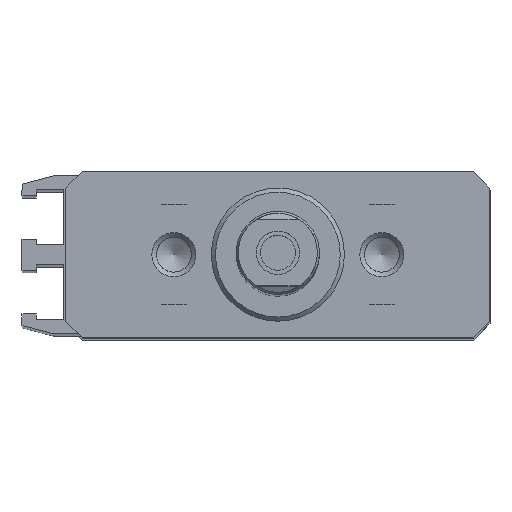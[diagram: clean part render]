
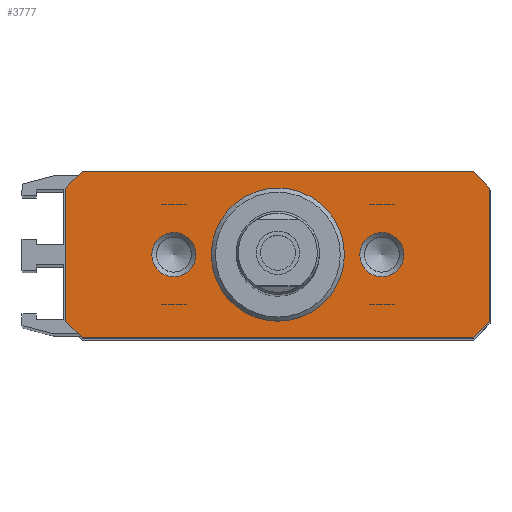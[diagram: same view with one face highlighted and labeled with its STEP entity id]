
A CAD part, top view. The second image highlights one B-rep face of the part: STEP entity #3777.
In plain terms, the highlighted planar face has unit normal (0, 0, 1) as drawn and (0, 0, -1) by its records, which use the part's own axes.
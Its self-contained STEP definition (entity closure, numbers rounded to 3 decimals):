
#2722=CARTESIAN_POINT('',(-8.0,0.0,-6.));
#2723=VERTEX_POINT('',#2722);
#2724=CARTESIAN_POINT('',(0.0,0.0,-6.));
#2725=DIRECTION('',(0.0,0.0,1.0));
#2726=DIRECTION('',(-1.0,0.0,0.0));
#2727=AXIS2_PLACEMENT_3D('',#2724,#2725,#2726);
#2728=CIRCLE('',#2727,8.0);
#2729=EDGE_CURVE('',#2723,#2723,#2728,.T.);
#3187=CARTESIAN_POINT('',(9.85,0.0,-6.));
#3188=VERTEX_POINT('',#3187);
#3189=CARTESIAN_POINT('',(12.5,0.0,-6.));
#3190=DIRECTION('',(0.0,0.0,1.0));
#3191=DIRECTION('',(-1.0,0.0,0.0));
#3192=AXIS2_PLACEMENT_3D('',#3189,#3190,#3191);
#3193=CIRCLE('',#3192,2.65);
#3194=EDGE_CURVE('',#3188,#3188,#3193,.T.);
#3237=CARTESIAN_POINT('',(-15.15,0.0,-6.));
#3238=VERTEX_POINT('',#3237);
#3239=CARTESIAN_POINT('',(-12.5,0.0,-6.));
#3240=DIRECTION('',(0.0,0.0,1.0));
#3241=DIRECTION('',(-1.0,0.0,0.0));
#3242=AXIS2_PLACEMENT_3D('',#3239,#3240,#3241);
#3243=CIRCLE('',#3242,2.65);
#3244=EDGE_CURVE('',#3238,#3238,#3243,.T.);
#3548=CARTESIAN_POINT('',(23.5,10.0,-6.));
#3549=VERTEX_POINT('',#3548);
#3550=CARTESIAN_POINT('',(-23.5,10.0,-6.));
#3551=VERTEX_POINT('',#3550);
#3552=CARTESIAN_POINT('',(23.5,10.0,-6.));
#3553=DIRECTION('',(-1.0,0.0,0.0));
#3554=VECTOR('',#3553,47.);
#3555=LINE('',#3552,#3554);
#3556=EDGE_CURVE('',#3549,#3551,#3555,.T.);
#3585=CARTESIAN_POINT('',(-25.5,8.,-6.));
#3586=VERTEX_POINT('',#3585);
#3587=CARTESIAN_POINT('',(-23.5,10.0,-6.));
#3588=DIRECTION('',(-0.707,-0.707,0.0));
#3589=VECTOR('',#3588,2.828);
#3590=LINE('',#3587,#3589);
#3591=EDGE_CURVE('',#3551,#3586,#3590,.T.);
#3609=CARTESIAN_POINT('',(-25.5,-8.,-6.));
#3610=VERTEX_POINT('',#3609);
#3611=CARTESIAN_POINT('',(-25.5,8.,-6.));
#3612=DIRECTION('',(0.0,-1.0,0.0));
#3613=VECTOR('',#3612,16.);
#3614=LINE('',#3611,#3613);
#3615=EDGE_CURVE('',#3586,#3610,#3614,.T.);
#3636=CARTESIAN_POINT('',(-23.5,-10.0,-6.));
#3637=VERTEX_POINT('',#3636);
#3638=CARTESIAN_POINT('',(-25.5,-8.,-6.));
#3639=DIRECTION('',(0.707,-0.707,0.0));
#3640=VECTOR('',#3639,2.828);
#3641=LINE('',#3638,#3640);
#3642=EDGE_CURVE('',#3610,#3637,#3641,.T.);
#3660=CARTESIAN_POINT('',(23.5,-10.0,-6.));
#3661=VERTEX_POINT('',#3660);
#3662=CARTESIAN_POINT('',(-23.5,-10.0,-6.));
#3663=DIRECTION('',(1.0,0.0,0.0));
#3664=VECTOR('',#3663,47.0);
#3665=LINE('',#3662,#3664);
#3666=EDGE_CURVE('',#3637,#3661,#3665,.T.);
#3690=CARTESIAN_POINT('',(25.5,-8.,-6.));
#3691=VERTEX_POINT('',#3690);
#3692=CARTESIAN_POINT('',(23.5,-10.0,-6.));
#3693=DIRECTION('',(0.707,0.707,0.0));
#3694=VECTOR('',#3693,2.828);
#3695=LINE('',#3692,#3694);
#3696=EDGE_CURVE('',#3661,#3691,#3695,.T.);
#3714=CARTESIAN_POINT('',(25.5,8.0,-6.));
#3715=VERTEX_POINT('',#3714);
#3716=CARTESIAN_POINT('',(25.5,-8.,-6.));
#3717=DIRECTION('',(0.0,1.0,0.0));
#3718=VECTOR('',#3717,16.);
#3719=LINE('',#3716,#3718);
#3720=EDGE_CURVE('',#3691,#3715,#3719,.T.);
#3741=CARTESIAN_POINT('',(25.5,8.0,-6.));
#3742=DIRECTION('',(-0.707,0.707,0.0));
#3743=VECTOR('',#3742,2.828);
#3744=LINE('',#3741,#3743);
#3745=EDGE_CURVE('',#3715,#3549,#3744,.T.);
#3753=CARTESIAN_POINT('',(0.,0.,-6.));
#3754=DIRECTION('',(0.0,0.0,1.0));
#3755=DIRECTION('',(1.0,0.0,0.0));
#3756=AXIS2_PLACEMENT_3D('',#3753,#3754,#3755);
#3757=PLANE('',#3756);
#3758=ORIENTED_EDGE('',*,*,#3556,.F.);
#3759=ORIENTED_EDGE('',*,*,#3745,.F.);
#3760=ORIENTED_EDGE('',*,*,#3720,.F.);
#3761=ORIENTED_EDGE('',*,*,#3696,.F.);
#3762=ORIENTED_EDGE('',*,*,#3666,.F.);
#3763=ORIENTED_EDGE('',*,*,#3642,.F.);
#3764=ORIENTED_EDGE('',*,*,#3615,.F.);
#3765=ORIENTED_EDGE('',*,*,#3591,.F.);
#3766=EDGE_LOOP('',(#3758,#3759,#3760,#3761,#3762,#3763,#3764,#3765));
#3767=FACE_OUTER_BOUND('',#3766,.T.);
#3768=ORIENTED_EDGE('',*,*,#2729,.T.);
#3769=EDGE_LOOP('',(#3768));
#3770=FACE_BOUND('',#3769,.T.);
#3771=ORIENTED_EDGE('',*,*,#3194,.T.);
#3772=EDGE_LOOP('',(#3771));
#3773=FACE_BOUND('',#3772,.T.);
#3774=ORIENTED_EDGE('',*,*,#3244,.T.);
#3775=EDGE_LOOP('',(#3774));
#3776=FACE_BOUND('',#3775,.T.);
#3777=ADVANCED_FACE('',(#3767,#3770,#3773,#3776),#3757,.F.);
